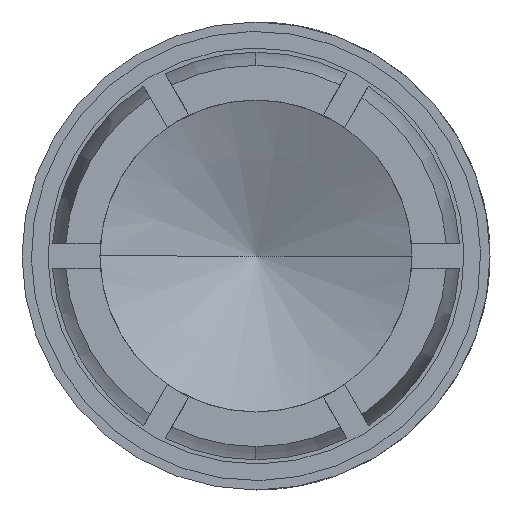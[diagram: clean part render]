
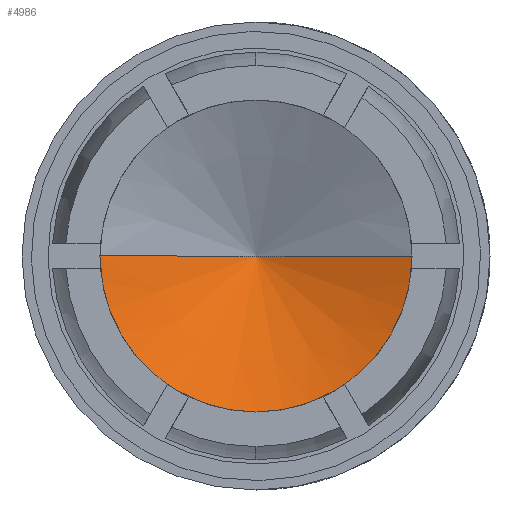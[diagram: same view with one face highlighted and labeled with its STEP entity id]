
A CAD part, left-side view. The second image highlights one B-rep face of the part: STEP entity #4986.
In plain terms, the highlighted conical face has half-angle 67.5 degrees and reference radius 2414.21 mm.
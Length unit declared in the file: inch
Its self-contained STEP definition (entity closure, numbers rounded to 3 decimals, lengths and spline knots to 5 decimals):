
#48 = CARTESIAN_POINT ( 'NONE',  ( -39.40225, 0., 0. ) ) ;
#71 = ORIENTED_EDGE ( 'NONE', *, *, #3679, .F. ) ;
#233 = CARTESIAN_POINT ( 'NONE',  ( -0.03217, 0., 0. ) ) ;
#347 = CARTESIAN_POINT ( 'NONE',  ( -0.03217, 0., 0. ) ) ;
#816 = VECTOR ( 'NONE', #2046, 39.37008 ) ;
#985 = CONICAL_SURFACE ( 'NONE', #3582, 95.04778, 1.178 ) ;
#1098 = CARTESIAN_POINT ( 'NONE',  ( -0.1875, -0.375, 0. ) ) ;
#1560 = DIRECTION ( 'NONE',  ( -1., 0., 0. ) ) ;
#2046 = DIRECTION ( 'NONE',  ( -0.383, 0.924, 0. ) ) ;
#2467 = AXIS2_PLACEMENT_3D ( 'NONE', #2622, #7896, #3414 ) ;
#2611 = ORIENTED_EDGE ( 'NONE', *, *, #7461, .F. ) ;
#2622 = CARTESIAN_POINT ( 'NONE',  ( -0.1875, 0., 0. ) ) ;
#3260 = DIRECTION ( 'NONE',  ( -0.383, -0.924, 0. ) ) ;
#3414 = DIRECTION ( 'NONE',  ( 0., 1., 0. ) ) ;
#3582 = AXIS2_PLACEMENT_3D ( 'NONE', #48, #1560, #6842 ) ;
#3679 = EDGE_CURVE ( 'NONE', #5799, #9678, #5164, .T. ) ;
#4986 = ADVANCED_FACE ( 'NONE', ( #8956 ), #985, .F. ) ;
#5164 = CIRCLE ( 'NONE', #2467, 0.375 ) ;
#5412 = EDGE_CURVE ( 'NONE', #8014, #9678, #6202, .T. ) ;
#5799 = VERTEX_POINT ( 'NONE', #9078 ) ;
#6202 = LINE ( 'NONE', #233, #7917 ) ;
#6381 = LINE ( 'NONE', #6589, #816 ) ;
#6589 = CARTESIAN_POINT ( 'NONE',  ( -0.03217, 0., 0. ) ) ;
#6842 = DIRECTION ( 'NONE',  ( 0., -1., 0. ) ) ;
#7408 = ORIENTED_EDGE ( 'NONE', *, *, #5412, .T. ) ;
#7461 = EDGE_CURVE ( 'NONE', #8014, #5799, #6381, .T. ) ;
#7896 = DIRECTION ( 'NONE',  ( 1., 0., 0. ) ) ;
#7917 = VECTOR ( 'NONE', #3260, 39.37008 ) ;
#8014 = VERTEX_POINT ( 'NONE', #347 ) ;
#8956 = FACE_OUTER_BOUND ( 'NONE', #9159, .T. ) ;
#9078 = CARTESIAN_POINT ( 'NONE',  ( -0.1875, 0.375, 0. ) ) ;
#9159 = EDGE_LOOP ( 'NONE', ( #2611, #7408, #71 ) ) ;
#9678 = VERTEX_POINT ( 'NONE', #1098 ) ;
